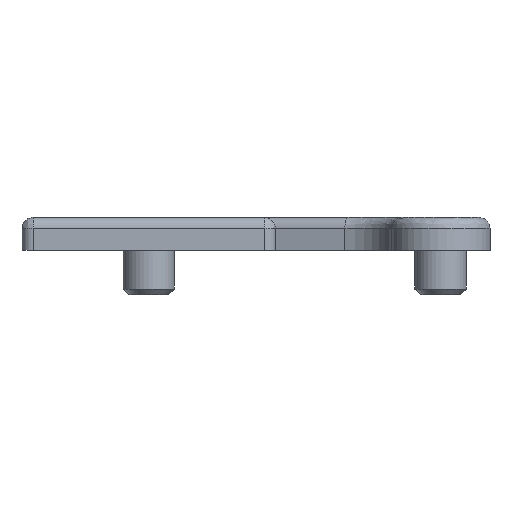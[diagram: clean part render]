
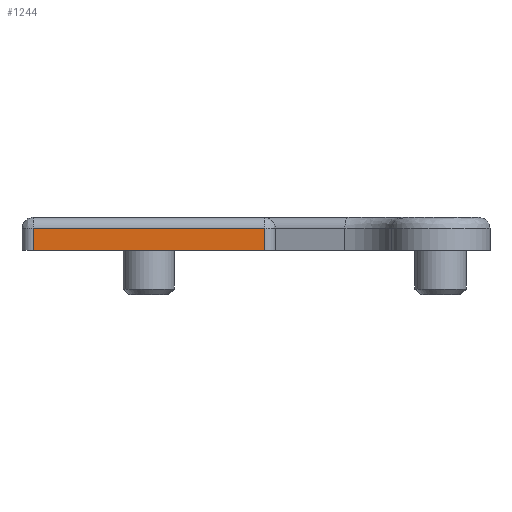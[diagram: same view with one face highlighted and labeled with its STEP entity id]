
A CAD part, front view. The second image highlights one B-rep face of the part: STEP entity #1244.
In plain terms, the highlighted planar face has unit normal (0, -1, 0).
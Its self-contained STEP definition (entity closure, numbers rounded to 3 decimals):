
#52 = PLANE ( 'NONE',  #459 ) ;
#56 = CARTESIAN_POINT ( 'NONE',  ( -28.394, 8.273, -1. ) ) ;
#61 = EDGE_CURVE ( 'NONE', #1081, #1218, #695, .T. ) ;
#83 = VECTOR ( 'NONE', #371, 1000. ) ;
#122 = LINE ( 'NONE', #911, #83 ) ;
#145 = LINE ( 'NONE', #56, #1311 ) ;
#164 = DIRECTION ( 'NONE',  ( 0., 0., 1. ) ) ;
#310 = CARTESIAN_POINT ( 'NONE',  ( -28.394, 8.273, -3. ) ) ;
#371 = DIRECTION ( 'NONE',  ( 0., 0., -1. ) ) ;
#372 = EDGE_CURVE ( 'NONE', #664, #760, #122, .T. ) ;
#390 = EDGE_CURVE ( 'NONE', #1218, #664, #145, .T. ) ;
#448 = CARTESIAN_POINT ( 'NONE',  ( -28.394, 8.273, -1. ) ) ;
#459 = AXIS2_PLACEMENT_3D ( 'NONE', #464, #1236, #476 ) ;
#464 = CARTESIAN_POINT ( 'NONE',  ( -28.394, 8.273, -3. ) ) ;
#476 = DIRECTION ( 'NONE',  ( 1., 0., 0. ) ) ;
#521 = VECTOR ( 'NONE', #1333, 1000. ) ;
#596 = LINE ( 'NONE', #1327, #521 ) ;
#656 = VECTOR ( 'NONE', #164, 1000. ) ;
#664 = VERTEX_POINT ( 'NONE', #448 ) ;
#666 = CARTESIAN_POINT ( 'NONE',  ( -7.394, 8.273, -1. ) ) ;
#688 = CARTESIAN_POINT ( 'NONE',  ( -7.394, 8.273, -3. ) ) ;
#695 = LINE ( 'NONE', #688, #656 ) ;
#709 = ORIENTED_EDGE ( 'NONE', *, *, #372, .T. ) ;
#760 = VERTEX_POINT ( 'NONE', #310 ) ;
#836 = EDGE_CURVE ( 'NONE', #760, #1081, #596, .T. ) ;
#911 = CARTESIAN_POINT ( 'NONE',  ( -28.394, 8.273, -3. ) ) ;
#948 = ORIENTED_EDGE ( 'NONE', *, *, #390, .T. ) ;
#965 = CARTESIAN_POINT ( 'NONE',  ( -7.394, 8.273, -3. ) ) ;
#978 = ORIENTED_EDGE ( 'NONE', *, *, #61, .T. ) ;
#1073 = ORIENTED_EDGE ( 'NONE', *, *, #836, .T. ) ;
#1081 = VERTEX_POINT ( 'NONE', #965 ) ;
#1107 = FACE_OUTER_BOUND ( 'NONE', #1221, .T. ) ;
#1218 = VERTEX_POINT ( 'NONE', #666 ) ;
#1221 = EDGE_LOOP ( 'NONE', ( #709, #1073, #978, #948 ) ) ;
#1231 = DIRECTION ( 'NONE',  ( -1., 0., 0. ) ) ;
#1236 = DIRECTION ( 'NONE',  ( 0., -1., 0. ) ) ;
#1244 = ADVANCED_FACE ( 'NONE', ( #1107 ), #52, .T. ) ;
#1311 = VECTOR ( 'NONE', #1231, 1000. ) ;
#1327 = CARTESIAN_POINT ( 'NONE',  ( -28.394, 8.273, -3. ) ) ;
#1333 = DIRECTION ( 'NONE',  ( 1., 0., 0. ) ) ;
